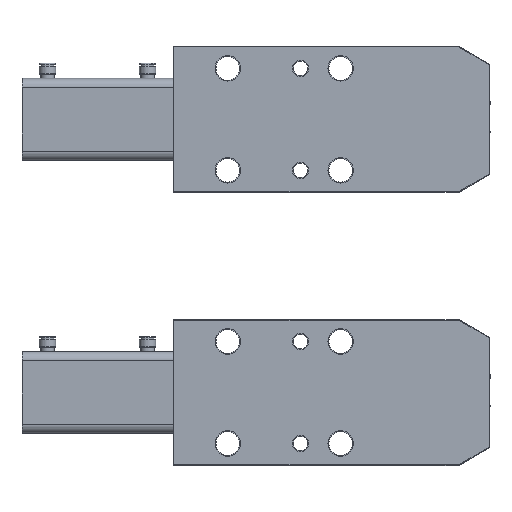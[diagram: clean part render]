
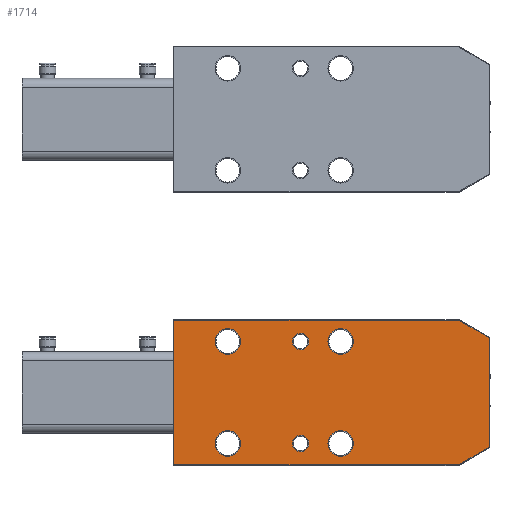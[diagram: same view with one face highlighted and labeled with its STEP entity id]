
A CAD part, top view. The second image highlights one B-rep face of the part: STEP entity #1714.
In plain terms, the highlighted planar face has unit normal (0, 0, 1).
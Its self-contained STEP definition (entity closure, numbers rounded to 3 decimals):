
#1714=ADVANCED_FACE('',(#3908,#3909,#3910,#3911,#3912,#3913,#3914),#3915,.F.);
#3908=FACE_OUTER_BOUND('',#6832,.T.);
#3909=FACE_BOUND('',#6833,.T.);
#3910=FACE_BOUND('',#6834,.T.);
#3911=FACE_BOUND('',#6835,.T.);
#3912=FACE_BOUND('',#6836,.T.);
#3913=FACE_BOUND('',#6837,.T.);
#3914=FACE_BOUND('',#6838,.T.);
#3915=PLANE('',#6839);
#6832=EDGE_LOOP('',(#11881,#11882,#11883,#11884,#11885,#11886));
#6833=EDGE_LOOP('',(#11887));
#6834=EDGE_LOOP('',(#11888));
#6835=EDGE_LOOP('',(#11889));
#6836=EDGE_LOOP('',(#11890));
#6837=EDGE_LOOP('',(#11891));
#6838=EDGE_LOOP('',(#11892));
#6839=AXIS2_PLACEMENT_3D('',#11893,#11894,#11895);
#11881=ORIENTED_EDGE('',*,*,#17657,.F.);
#11882=ORIENTED_EDGE('',*,*,#17535,.T.);
#11883=ORIENTED_EDGE('',*,*,#17532,.F.);
#11884=ORIENTED_EDGE('',*,*,#16623,.T.);
#11885=ORIENTED_EDGE('',*,*,#17527,.F.);
#11886=ORIENTED_EDGE('',*,*,#17658,.F.);
#11887=ORIENTED_EDGE('',*,*,#17538,.T.);
#11888=ORIENTED_EDGE('',*,*,#17655,.T.);
#11889=ORIENTED_EDGE('',*,*,#17014,.T.);
#11890=ORIENTED_EDGE('',*,*,#17653,.T.);
#11891=ORIENTED_EDGE('',*,*,#16806,.T.);
#11892=ORIENTED_EDGE('',*,*,#17530,.T.);
#11893=CARTESIAN_POINT('',(0.0,0.,61.0));
#11894=DIRECTION('',(0.0,0.0,-1.0));
#11895=DIRECTION('',(0.0,-1.0,0.0));
#16623=EDGE_CURVE('',#19707,#19705,#19708,.T.);
#16806=EDGE_CURVE('',#20015,#20015,#20016,.T.);
#17014=EDGE_CURVE('',#20340,#20340,#20341,.T.);
#17527=EDGE_CURVE('',#21028,#19705,#21029,.T.);
#17530=EDGE_CURVE('',#21032,#21032,#21033,.T.);
#17532=EDGE_CURVE('',#19707,#21035,#21036,.T.);
#17535=EDGE_CURVE('',#21039,#21035,#21040,.T.);
#17538=EDGE_CURVE('',#21043,#21043,#21044,.T.);
#17653=EDGE_CURVE('',#21188,#21188,#21189,.T.);
#17655=EDGE_CURVE('',#21191,#21191,#21192,.T.);
#17657=EDGE_CURVE('',#21039,#21194,#21195,.T.);
#17658=EDGE_CURVE('',#21194,#21028,#21196,.T.);
#19705=VERTEX_POINT('',#24299);
#19707=VERTEX_POINT('',#24302);
#19708=LINE('',#24303,#24304);
#20015=VERTEX_POINT('',#24777);
#20016=CIRCLE('',#24778,7.0);
#20340=VERTEX_POINT('',#25333);
#20341=CIRCLE('',#25334,7.0);
#21028=VERTEX_POINT('',#26463);
#21029=LINE('',#26464,#26465);
#21032=VERTEX_POINT('',#26469);
#21033=CIRCLE('',#26470,7.0);
#21035=VERTEX_POINT('',#26472);
#21036=LINE('',#26473,#26474);
#21039=VERTEX_POINT('',#26478);
#21040=LINE('',#26479,#26480);
#21043=VERTEX_POINT('',#26484);
#21044=CIRCLE('',#26485,4.5);
#21188=VERTEX_POINT('',#26687);
#21189=CIRCLE('',#26688,7.0);
#21191=VERTEX_POINT('',#26690);
#21192=CIRCLE('',#26691,4.5);
#21194=VERTEX_POINT('',#26693);
#21195=LINE('',#26694,#26695);
#21196=LINE('',#26696,#26697);
#24299=CARTESIAN_POINT('',(156.75,79.75,61.0));
#24302=CARTESIAN_POINT('',(173.75,69.935,61.0));
#24303=CARTESIAN_POINT('',(173.75,69.935,61.0));
#24304=VECTOR('',#30532,1.0);
#24777=CARTESIAN_POINT('',(23.0,68.0,61.0));
#24778=AXIS2_PLACEMENT_3D('',#30669,#30670,#30671);
#25333=CARTESIAN_POINT('',(85.,68.0,61.0));
#25334=AXIS2_PLACEMENT_3D('',#30774,#30775,#30776);
#26463=CARTESIAN_POINT('',(0.25,79.75,61.0));
#26464=CARTESIAN_POINT('',(153.933,79.75,61.0));
#26465=VECTOR('',#31100,1.0);
#26469=CARTESIAN_POINT('',(23.0,12.0,61.0));
#26470=AXIS2_PLACEMENT_3D('',#31102,#31103,#31104);
#26472=CARTESIAN_POINT('',(173.75,10.065,61.0));
#26473=CARTESIAN_POINT('',(173.75,11.691,61.0));
#26474=VECTOR('',#31105,1.0);
#26478=CARTESIAN_POINT('',(156.75,0.25,61.0));
#26479=CARTESIAN_POINT('',(156.75,0.25,61.0));
#26480=VECTOR('',#31107,1.0);
#26484=CARTESIAN_POINT('',(65.5,68.0,61.0));
#26485=AXIS2_PLACEMENT_3D('',#31109,#31110,#31111);
#26687=CARTESIAN_POINT('',(85.,12.0,61.0));
#26688=AXIS2_PLACEMENT_3D('',#31184,#31185,#31186);
#26690=CARTESIAN_POINT('',(65.5,12.0,61.0));
#26691=AXIS2_PLACEMENT_3D('',#31187,#31188,#31189);
#26693=CARTESIAN_POINT('',(0.25,0.25,61.0));
#26694=CARTESIAN_POINT('',(-9.75,0.25,61.0));
#26695=VECTOR('',#31190,1.0);
#26696=CARTESIAN_POINT('',(0.25,79.75,61.0));
#26697=VECTOR('',#31191,1.0);
#30532=DIRECTION('',(-0.866,0.5,-0.0));
#30669=CARTESIAN_POINT('',(30.0,68.0,61.0));
#30670=DIRECTION('',(0.0,0.0,-1.0));
#30671=DIRECTION('',(-1.0,0.0,0.0));
#30774=CARTESIAN_POINT('',(92.,68.0,61.0));
#30775=DIRECTION('',(0.0,0.0,-1.0));
#30776=DIRECTION('',(-1.0,0.0,0.0));
#31100=DIRECTION('',(1.0,0.0,0.0));
#31102=CARTESIAN_POINT('',(30.0,12.0,61.0));
#31103=DIRECTION('',(0.0,0.0,-1.0));
#31104=DIRECTION('',(-1.0,0.0,0.0));
#31105=DIRECTION('',(0.,-1.0,0.0));
#31107=DIRECTION('',(0.866,0.5,-0.0));
#31109=CARTESIAN_POINT('',(70.,68.0,61.0));
#31110=DIRECTION('',(0.0,0.0,-1.0));
#31111=DIRECTION('',(-1.0,0.0,0.0));
#31184=CARTESIAN_POINT('',(92.,12.0,61.0));
#31185=DIRECTION('',(0.0,0.0,-1.0));
#31186=DIRECTION('',(-1.0,0.0,0.0));
#31187=CARTESIAN_POINT('',(70.,12.0,61.0));
#31188=DIRECTION('',(0.0,0.0,-1.0));
#31189=DIRECTION('',(-1.0,0.0,0.0));
#31190=DIRECTION('',(-1.0,0.0,0.0));
#31191=DIRECTION('',(0.,1.0,0.0));
